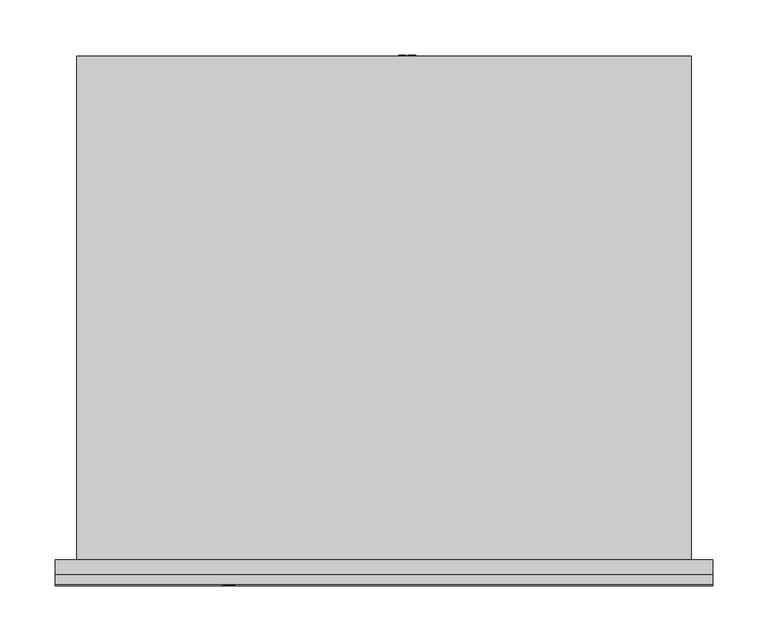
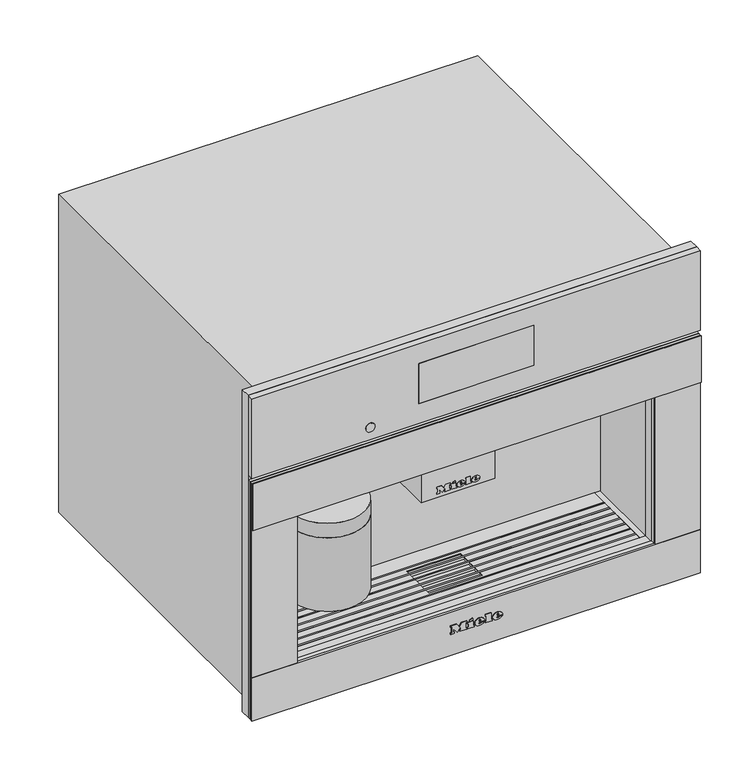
"""IFC4 building model written with IfcOpenShell, lengths in millimetres: proxy geometry, 11754270_USA_CVA7840_EDST-CLST : 29784040_USA_11754270_CVA7840_EDST-CLST."""

from ifc_helpers import new_model, si_unit, point, frame, frame_2d, origin, place, context, project, spatial, polyline, circle_curve, ellipse_curve, trimmed, segment, composite_curve, outline, extrude, faceted_brep, source, transform, mapped, element, save
from ifc_brep_helpers import plane_surface, cylinder_surface, revolved_surface, extruded_surface, advanced_brep


def specialty_equipment_d6a6ee0f(model_context):
    return source(origin(), model_context, "Body", "SolidModel", [
        extrude(outline(composite_curve([segment(trimmed(circle_curve(frame_2d((-14.0, 36.5)), 5.0), [point((-9.0, 36.5))], [point((-19.0, 36.5))], False, "CARTESIAN"), True, "CONTINUOUS"), segment(trimmed(circle_curve(frame_2d((-14.0, 36.5)), 5.0), [point((-19.0, 36.5))], [point((-9.0, 36.5))], False, "CARTESIAN"), True, "CONTINUOUS")], self_intersect=False)), frame((0.0, 0.0, 193.0), z_axis=(0.0, 0.0, 1.0), x_axis=(1.0, 0.0, 0.0)), (0.0, 0.0, 1.0), 5.0),
        extrude(outline(composite_curve([segment(trimmed(circle_curve(frame_2d((14.0, 36.5)), 5.0), [point((19.0, 36.5))], [point((9.0, 36.5))], False, "CARTESIAN"), True, "CONTINUOUS"), segment(trimmed(circle_curve(frame_2d((14.0, 36.5)), 5.0), [point((9.0, 36.5))], [point((19.0, 36.5))], False, "CARTESIAN"), True, "CONTINUOUS")], self_intersect=False)), frame((0.0, 0.0, 193.0), z_axis=(0.0, 0.0, 1.0), x_axis=(1.0, 0.0, 0.0)), (0.0, 0.0, 1.0), 5.0),
        extrude(outline(composite_curve([segment(trimmed(circle_curve(frame_2d((-156.5, 49.5)), 50.0), [point((-106.5, 49.5))], [point((-206.5, 49.5))], False, "CARTESIAN"), True, "CONTINUOUS"), segment(trimmed(circle_curve(frame_2d((-156.5, 49.5)), 50.0), [point((-206.5, 49.5))], [point((-106.5, 49.5))], False, "CARTESIAN"), True, "CONTINUOUS")], self_intersect=False)), frame((0.0, 0.0, 100.0), z_axis=(0.0, 0.0, 1.0), x_axis=(1.0, 0.0, 0.0)), (0.0, 0.0, 1.0), 103.0),
        extrude(outline(polyline([(-49.0, 95.0), (49.0, 95.0), (49.0, 20.0), (-49.0, 20.0), (-49.0, 95.0)])), frame((0.0, 0.0, 198.0), z_axis=(0.0, 0.0, 1.0), x_axis=(1.0, 0.0, 0.0)), (0.0, 0.0, 1.0), 75.0),
        extrude(outline(polyline([(455.5, 297.5), (455.5, -297.5), (4.0, -297.5), (4.0, 297.5), (455.5, 297.5)]), holes=[polyline([(273.0, 237.5), (63.0, 237.5), (63.0, -237.5), (273.0, -237.5), (273.0, 237.5)])]), frame((0.0, -13.0, 0.0), z_axis=(0.0, 1.0, 0.0), x_axis=(0.0, 0.0, 1.0)), (0.0, 0.0, 1.0), 13.0),
        extrude(outline(polyline([(97.0, 28.8772152), (107.045631, 28.8772152), (107.045631, 21.6569179), (105.7899271, 21.6569179), (105.7899271, 27.6215114), (102.8076304, 27.6215114), (102.8076304, 21.9708439), (101.5519266, 21.9708439), (101.5519266, 27.6215114), (98.2557039, 27.6215114), (98.2557039, 21.499955), (97.0, 21.499955), (97.0, 28.8772152)])), frame((0.0, 456.0, 0.0), z_axis=(0.0, 1.0, 0.0), x_axis=(0.0, 0.0, 1.0)), (0.0, 0.0, 1.0), 1.0),
        extrude(outline(polyline([(97.0, 19.6163991), (107.045631, 19.6163991), (107.045631, 18.3606953), (98.2557039, 18.3606953), (98.2557039, 13.3378798), (97.0, 13.3378798), (97.0, 19.6163991)])), frame((0.0, 456.0, 0.0), z_axis=(0.0, 1.0, 0.0), x_axis=(0.0, 0.0, 1.0)), (0.0, 0.0, 1.0), 1.0),
        advanced_brep(
        [(55.0, 425.5, 102.0), (55.0, 410.5, 102.0), (28.5, 425.5, 102.0), (13.5, 410.5, 102.0), (28.5, 456.0, 102.0), (13.5, 456.0, 102.0)],
        [
            (0, 1, circle_curve(frame((55.0, 418.0, 102.0), z_axis=(1.0, 0.0, 0.0), x_axis=(0.0, -1.0, 0.0)), 7.5)),
            (1, 0, circle_curve(frame((55.0, 418.0, 102.0), z_axis=(1.0, 0.0, 0.0), x_axis=(0.0, -1.0, 0.0)), 7.5)),
            (0, 2),
            (2, 3, ellipse_curve(frame((21.0, 418.0, 102.0), z_axis=(0.7071067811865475, -0.7071067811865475, 0.0), x_axis=(0.7071067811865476, 0.7071067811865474, 0.0)), 10.6066017, 7.5)),
            (3, 1),
            (3, 2, ellipse_curve(frame((21.0, 418.0, 102.0), z_axis=(0.7071067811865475, -0.7071067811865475, 0.0), x_axis=(0.7071067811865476, 0.7071067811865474, 0.0)), 10.6066017, 7.5)),
            (4, 5, circle_curve(frame((21.0, 456.0, 102.0), z_axis=(0.0, 1.0, 0.0), x_axis=(-1.0, 0.0, 0.0)), 7.5)),
            (5, 4, circle_curve(frame((21.0, 456.0, 102.0), z_axis=(0.0, 1.0, 0.0), x_axis=(-1.0, 0.0, 0.0)), 7.5)),
            (2, 4),
            (5, 3),
        ],
        [
            plane_surface(frame((55.0, 418.0, 102.0), z_axis=(1.0, 0.0, 0.0), x_axis=(0.0, 0.0, 1.0))),
            cylinder_surface(frame((55.0, 418.0, 102.0), z_axis=(1.0, 0.0, 0.0), x_axis=(0.0, -1.0, 0.0)), 7.5),
            plane_surface(frame((21.0, 456.0, 102.0), z_axis=(0.0, 1.0, 0.0), x_axis=(0.0, 0.0, 1.0))),
            cylinder_surface(frame((21.0, 418.0, 102.0), z_axis=(0.0, -1.0, 0.0), x_axis=(-1.0, 0.0, 0.0)), 7.5),
        ],
        [
            (0, [[1, 2]]),
            (1, [[-1, 3, 4, 5]]),
            (1, [[-2, -5, 6, -3]]),
            (2, [[7, 8]]),
            (3, [[-4, 9, -8, 10]]),
            (3, [[-6, -10, -7, -9]]),
        ],
    ),
        advanced_brep(
        [(-110.0, 49.5, 252.0), (-203.0, 49.5, 252.0), (-206.5, 49.5, 223.5), (-106.5, 49.5, 223.5), (-110.0, 49.5, 273.0), (-203.0, 49.5, 273.0), (-156.5, 49.5, 273.0), (-106.5, 49.5, 203.0), (-206.5, 49.5, 203.0), (-156.5, 49.5, 203.0)],
        [
            (0, 1, circle_curve(frame((-156.5, 49.5, 252.0), z_axis=(0.0, 0.0, -1.0), x_axis=(-1.0, 0.0, 0.0)), 46.5)),
            (1, 2, circle_curve(frame((-206.7961166, 49.5, 238.0012775), z_axis=(0.0, 1.0, 0.0), x_axis=(-1.0, 0.0, 0.0)), 14.5043005)),
            (2, 3, circle_curve(frame((-156.5, 49.5, 223.5), z_axis=(0.0, 0.0, 1.0), x_axis=(-1.0, 0.0, 0.0)), 50.0)),
            (3, 0, circle_curve(frame((-106.2038834, 49.5, 238.0012775), z_axis=(0.0, 1.0, 0.0), x_axis=(1.0, 0.0, 0.0)), 14.5043005)),
            (4, 5, circle_curve(frame((-156.5, 49.5, 273.0), z_axis=(0.0, 0.0, -1.0), x_axis=(-1.0, 0.0, 0.0)), 46.5)),
            (5, 1),
            (0, 4),
            (6, 4),
            (4, 5, circle_curve(frame((-156.5, 49.5, 273.0), z_axis=(0.0, 0.0, 1.0), x_axis=(-1.0, 0.0, 0.0)), 46.5)),
            (5, 6),
            (7, 8, circle_curve(frame((-156.5, 49.5, 203.0), z_axis=(0.0, 0.0, -1.0), x_axis=(-1.0, 0.0, 0.0)), 50.0)),
            (8, 9),
            (9, 7),
            (8, 7, circle_curve(frame((-156.5, 49.5, 203.0), z_axis=(0.0, 0.0, -1.0), x_axis=(-1.0, 0.0, 0.0)), 50.0)),
            (2, 8),
            (7, 3),
            (2, 3, circle_curve(frame((-156.5, 49.5, 223.5), z_axis=(0.0, 0.0, -1.0), x_axis=(-1.0, 0.0, 0.0)), 50.0)),
            (1, 0, circle_curve(frame((-156.5, 49.5, 252.0), z_axis=(0.0, 0.0, -1.0), x_axis=(-1.0, 0.0, 0.0)), 46.5)),
        ],
        [
            revolved_surface(trimmed(ellipse_curve(frame((-206.7961166, 49.5, 238.0012775), z_axis=(0.0, -1.0, 0.0), x_axis=(-1.0, 0.0, 0.0)), 14.5043005, 14.5043005), [point((-206.5, 49.5, 223.5))], [point((-203.0, 49.5, 252.0))], True, "CARTESIAN"), (-156.5, 49.5, 388.7361736), (0.0, 0.0, 1.0)),
            cylinder_surface(frame((-156.5, 49.5, 388.7361736), z_axis=(0.0, 0.0, 1.0), x_axis=(-1.0, 0.0, 0.0)), 46.5),
            plane_surface(frame((-156.5, 49.5, 273.0), z_axis=(0.0, 0.0, 1.0), x_axis=(-1.0, 0.0, 0.0))),
            plane_surface(frame((-156.5, 49.5, 203.0), z_axis=(0.0, 0.0, -1.0), x_axis=(-1.0, 0.0, 0.0))),
            cylinder_surface(frame((-156.5, 49.5, 388.7361736), z_axis=(0.0, 0.0, 1.0), x_axis=(-1.0, 0.0, 0.0)), 50.0),
        ],
        [
            (0, [[1, 2, 3, 4]]),
            (1, [[5, 6, -1, 7]]),
            (2, [[8, 9, 10]]),
            (3, [[11, 12, 13]]),
            (3, [[14, -13, -12]]),
            (4, [[-3, 15, -11, 16]]),
            (4, [[17, -16, -14, -15]]),
            (0, [[18, -4, -17, -2]]),
            (1, [[-9, -7, -18, -6]]),
            (2, [[-10, -5, -8]]),
        ],
    ),
        faceted_brep([(229.5, 82.0925571, 60.0), (229.5, 80.0925571, 60.0), (-229.5, 80.0925571, 60.0), (-229.5, 82.0925571, 60.0), (229.5, 70.0550731, 60.0), (229.5, 68.0550731, 60.0), (-229.5, 68.0550731, 60.0), (-229.5, 70.0550731, 60.0), (229.5, 58.0175891, 60.0), (229.5, 56.0175891, 60.0), (-229.5, 56.0175891, 60.0), (-229.5, 58.0175891, 60.0), (229.5, 45.9801052, 60.0), (229.5, 43.9801052, 60.0), (-229.5, 43.9801052, 60.0), (-229.5, 45.9801052, 60.0), (229.5, 33.9426212, 60.0), (229.5, 31.9426212, 60.0), (-229.5, 31.9426212, 60.0), (-229.5, 33.9426212, 60.0), (229.5, 21.9776522, 60.0), (229.5, 19.9776522, 60.0), (-229.5, 19.9776522, 60.0), (-229.5, 21.9776522, 60.0), (229.5, 10.0, 60.0), (229.5, 8.0, 60.0), (-229.5, 8.0, 60.0), (-229.5, 10.0, 60.0), (-229.5, 45.9801052, 62.0), (-36.0, 45.9801052, 62.0), (-36.0, 45.9801052, 63.0), (-229.5, 45.9801052, 63.0), (-229.5, 45.9801052, 63.5), (229.5, 45.9801052, 63.5), (229.5, 45.9801052, 63.0), (36.0, 45.9801052, 63.0), (36.0, 45.9801052, 62.0), (229.5, 45.9801052, 62.0), (229.5, 19.9776522, 62.0), (229.5, 10.0, 62.0), (-229.5, 10.0, 62.0), (-229.5, 19.9776522, 62.0), (229.5, 43.9801052, 62.0), (229.5, 33.9426212, 62.0), (36.0, 33.9426212, 62.0), (36.0, 43.9801052, 62.0), (229.5, 56.0175891, 62.0), (36.0, 56.0175891, 62.0), (229.5, 68.0550731, 62.0), (229.5, 58.0175891, 62.0), (36.0, 58.0175891, 62.0), (36.0, 68.0550731, 62.0), (-229.5, 33.9426212, 62.0), (-229.5, 43.9801052, 62.0), (-36.0, 43.9801052, 62.0), (-36.0, 33.9426212, 62.0), (-229.5, 56.0175891, 62.0), (-36.0, 56.0175891, 62.0), (-229.5, 58.0175891, 62.0), (-229.5, 68.0550731, 62.0), (-36.0, 68.0550731, 62.0), (-36.0, 58.0175891, 62.0), (-229.5, 104.5, 62.0), (229.5, 104.5, 62.0), (229.5, 82.0925571, 62.0), (-229.5, 82.0925571, 62.0), (36.0, 76.0, 62.0), (-36.0, 76.0, 62.0), (-36.0, 70.0550731, 62.0), (-229.5, 70.0550731, 62.0), (-229.5, 80.0925571, 62.0), (229.5, 80.0925571, 62.0), (229.5, 70.0550731, 62.0), (36.0, 70.0550731, 62.0), (229.5, 0.0, 62.0), (-229.5, 0.0, 62.0), (-229.5, 8.0, 62.0), (229.5, 8.0, 62.0), (-36.0, 25.0, 62.0), (36.0, 25.0, 62.0), (36.0, 31.9426212, 62.0), (229.5, 31.9426212, 62.0), (229.5, 21.9776522, 62.0), (-229.5, 21.9776522, 62.0), (-229.5, 31.9426212, 62.0), (-36.0, 31.9426212, 62.0), (229.5, 104.5, 63.0), (-229.5, 104.5, 63.0), (-229.5, 82.0925571, 63.0), (229.5, 82.0925571, 63.0), (-229.5, 0.0, 63.0), (229.5, 0.0, 63.0), (229.5, 8.0, 63.0), (-229.5, 8.0, 63.0), (-36.0, 76.0, 63.0), (36.0, 76.0, 63.0), (36.0, 70.0550731, 63.0), (229.5, 70.0550731, 63.0), (229.5, 80.0925571, 63.0), (-229.5, 80.0925571, 63.0), (-229.5, 70.0550731, 63.0), (-36.0, 70.0550731, 63.0), (36.0, 25.0, 63.0), (-36.0, 25.0, 63.0), (-36.0, 31.9426212, 63.0), (-229.5, 31.9426212, 63.0), (-229.5, 21.9776522, 63.0), (229.5, 21.9776522, 63.0), (229.5, 31.9426212, 63.0), (36.0, 31.9426212, 63.0), (-229.5, 19.9776522, 63.0), (-229.5, 10.0, 63.0), (229.5, 10.0, 63.0), (229.5, 19.9776522, 63.0), (-229.5, 43.9801052, 63.0), (-229.5, 33.9426212, 63.0), (-36.0, 33.9426212, 63.0), (-36.0, 43.9801052, 63.0), (-229.5, 56.0175891, 63.0), (-36.0, 56.0175891, 63.0), (-229.5, 68.0550731, 63.0), (-229.5, 58.0175891, 63.0), (-36.0, 58.0175891, 63.0), (-36.0, 68.0550731, 63.0), (229.5, 33.9426212, 63.0), (229.5, 43.9801052, 63.0), (36.0, 43.9801052, 63.0), (36.0, 33.9426212, 63.0), (229.5, 56.0175891, 63.0), (36.0, 56.0175891, 63.0), (229.5, 58.0175891, 63.0), (229.5, 68.0550731, 63.0), (36.0, 68.0550731, 63.0), (36.0, 58.0175891, 63.0), (-229.5, 8.0, 63.5), (-229.5, 10.0, 63.5), (-229.5, 19.9776522, 63.5), (-229.5, 21.9776522, 63.5), (-229.5, 31.9426212, 63.5), (-229.5, 33.9426212, 63.5), (-229.5, 43.9801052, 63.5), (-229.5, 56.0175891, 63.5), (-229.5, 58.0175891, 63.5), (-229.5, 68.0550731, 63.5), (-229.5, 70.0550731, 63.5), (-229.5, 80.0925571, 63.5), (-229.5, 82.0925571, 63.5), (229.5, 82.0925571, 63.5), (229.5, 80.0925571, 63.5), (229.5, 70.0550731, 63.5), (229.5, 68.0550731, 63.5), (229.5, 58.0175891, 63.5), (229.5, 56.0175891, 63.5), (229.5, 43.9801052, 63.5), (229.5, 33.9426212, 63.5), (229.5, 31.9426212, 63.5), (229.5, 21.9776522, 63.5), (229.5, 19.9776522, 63.5), (229.5, 10.0, 63.5), (229.5, 8.0, 63.5)], [[[0, 1, 2, 3]], [[4, 5, 6, 7]], [[8, 9, 10, 11]], [[12, 13, 14, 15]], [[16, 17, 18, 19]], [[20, 21, 22, 23]], [[24, 25, 26, 27]], [[12, 15, 28, 29, 30, 31, 32, 33, 34, 35, 36, 37]], [[38, 39, 40, 41]], [[42, 43, 44, 45]], [[46, 37, 36, 47]], [[48, 49, 50, 51]], [[52, 53, 54, 55]], [[28, 56, 57, 29]], [[58, 59, 60, 61]], [[62, 63, 64, 65]], [[66, 67, 68, 69, 70, 71, 72, 73]], [[74, 75, 76, 77]], [[78, 79, 80, 81, 82, 83, 84, 85]], [[86, 87, 88, 89]], [[90, 91, 92, 93]], [[94, 95, 96, 97, 98, 99, 100, 101]], [[102, 103, 104, 105, 106, 107, 108, 109]], [[110, 111, 112, 113]], [[114, 115, 116, 117]], [[118, 31, 30, 119]], [[120, 121, 122, 123]], [[124, 125, 126, 127]], [[34, 128, 129, 35]], [[130, 131, 132, 133]], [[63, 62, 87, 86]], [[87, 62, 65, 3, 2, 70, 69, 7, 6, 59, 58, 11, 10, 56, 28, 15, 14, 53, 52, 19, 18, 84, 83, 23, 22, 41, 40, 27, 26, 76, 75, 90, 93, 134, 135, 111, 110, 136, 137, 106, 105, 138, 139, 115, 114, 140, 32, 31, 118, 141, 142, 121, 120, 143, 144, 100, 99, 145, 146, 88]], [[75, 74, 91, 90]], [[63, 86, 89, 147, 148, 98, 97, 149, 150, 131, 130, 151, 152, 128, 34, 33, 153, 125, 124, 154, 155, 108, 107, 156, 157, 113, 112, 158, 159, 92, 91, 74, 77, 25, 24, 39, 38, 21, 20, 82, 81, 17, 16, 43, 42, 13, 12, 37, 46, 9, 8, 49, 48, 5, 4, 72, 71, 1, 0, 64]], [[66, 95, 94, 67]], [[55, 54, 117, 116]], [[29, 57, 119, 30]], [[61, 60, 123, 122]], [[67, 94, 101, 68]], [[103, 78, 85, 104]], [[78, 103, 102, 79]], [[45, 44, 127, 126]], [[47, 36, 35, 129]], [[51, 50, 133, 132]], [[95, 66, 73, 96]], [[79, 102, 109, 80]], [[158, 135, 134, 159]], [[156, 137, 136, 157]], [[154, 139, 138, 155]], [[33, 32, 140, 153]], [[151, 142, 141, 152]], [[149, 144, 143, 150]], [[147, 146, 145, 148]], [[24, 27, 40, 39]], [[135, 158, 112, 111]], [[26, 25, 77, 76]], [[159, 134, 93, 92]], [[20, 23, 83, 82]], [[137, 156, 107, 106]], [[22, 21, 38, 41]], [[157, 136, 110, 113]], [[16, 19, 52, 55, 116, 115, 139, 154, 124, 127, 44, 43]], [[18, 17, 81, 80, 109, 108, 155, 138, 105, 104, 85, 84]], [[14, 13, 42, 45, 126, 125, 153, 140, 114, 117, 54, 53]], [[8, 11, 58, 61, 122, 121, 142, 151, 130, 133, 50, 49]], [[10, 9, 46, 47, 129, 128, 152, 141, 118, 119, 57, 56]], [[4, 7, 69, 68, 101, 100, 144, 149, 97, 96, 73, 72]], [[6, 5, 48, 51, 132, 131, 150, 143, 120, 123, 60, 59]], [[0, 3, 65, 64]], [[146, 147, 89, 88]], [[2, 1, 71, 70]], [[148, 145, 99, 98]]]),
        faceted_brep([(-278.0, 456.0, 0.0), (-278.0, 0.0, 0.0), (-278.0, 0.0, 446.0), (-278.0, 456.0, 446.0), (278.0, 456.0, 0.0), (278.0, 456.0, 446.0), (278.0, 0.0, 446.0), (278.0, 0.0, 0.0), (55.0, 456.0, 133.0), (-22.0, 456.0, 133.0), (-22.0, 456.0, 89.0), (35.0, 456.0, 66.0), (55.0, 456.0, 66.0), (-36.0, 76.0, 58.0), (36.0, 76.0, 58.0), (36.0, 76.0, 62.0), (-36.0, 76.0, 62.0), (36.0, 25.0, 58.0), (-36.0, 25.0, 58.0), (-36.0, 25.0, 62.0), (36.0, 25.0, 62.0), (237.5, 0.0, 273.0), (237.5, 0.0, 63.0), (229.5, 0.0, 63.0), (229.5, 0.0, 62.0), (-229.5, 0.0, 62.0), (-229.5, 0.0, 63.0), (-237.5, 0.0, 63.0), (-237.5, 0.0, 273.0), (237.5, 104.5, 273.0), (-237.5, 104.5, 273.0), (-237.5, 104.5, 63.0), (-229.5, 104.5, 63.0), (-229.5, 104.5, 62.0), (229.5, 104.5, 62.0), (229.5, 104.5, 63.0), (237.5, 104.5, 63.0), (-22.0, 400.0, 133.0), (55.0, 400.0, 133.0), (55.0, 400.0, 66.0), (35.0, 400.0, 66.0), (-22.0, 400.0, 89.0)], [[[0, 1, 2, 3]], [[4, 5, 6, 7]], [[0, 3, 5, 4], [8, 9, 10, 11, 12]], [[13, 14, 15, 16]], [[17, 18, 19, 20]], [[3, 2, 6, 5]], [[2, 1, 7, 6], [21, 22, 23, 24, 25, 26, 27, 28]], [[1, 0, 4, 7]], [[29, 30, 31, 32, 33, 34, 35, 36]], [[29, 36, 22, 21]], [[22, 36, 35, 23]], [[31, 27, 26, 32]], [[31, 30, 28, 27]], [[30, 29, 21, 28]], [[34, 33, 25, 24], [16, 15, 20, 19]], [[25, 33, 32, 26]], [[34, 24, 23, 35]], [[14, 13, 18, 17]], [[18, 13, 16, 19]], [[14, 17, 20, 15]], [[37, 38, 39, 40, 41]], [[38, 37, 9, 8]], [[39, 38, 8, 12]], [[40, 39, 12, 11]], [[41, 40, 11, 10]], [[37, 41, 10, 9]]]),
        advanced_brep(
        [(27.088, -23.0, 36.7018), (27.088, -23.0, 37.8532), (34.7146, -23.0, 37.8532), (21.445, -23.0, 37.8532), (24.58, -23.0, 34.0), (34.5208, -23.0, 36.7018), (31.078, -23.0, 36.7018), (28.3648, -23.0, 35.425), (27.088, -23.0, 39.3124), (27.088, -23.0, 40.555), (29.0374, -23.0, 40.555), (29.0374, -23.0, 39.3124), (27.088, -22.0, 36.7018), (28.3648, -22.0, 35.425), (31.078, -22.0, 36.7018), (34.5208, -22.0, 36.7018), (24.58, -22.0, 34.0), (21.445, -22.0, 37.8532), (34.7146, -22.0, 37.8532), (27.088, -22.0, 37.8532), (27.088, -22.0, 39.3124), (29.0374, -22.0, 39.3124), (29.0374, -22.0, 40.555), (27.088, -22.0, 40.555)],
        [
            (0, 1),
            (1, 2),
            (2, 3, ellipse_curve(frame((28.0798, -23.0, 37.8532), z_axis=(0.0, -1.0, 0.0), x_axis=(-1.0, 0.0, 0.0)), 6.6348, 5.4834)),
            (3, 4, circle_curve(frame((25.8568622, -23.0, 38.2408), z_axis=(0.0, -1.0, 0.0), x_axis=(0.0, 0.0, -1.0)), 4.4288556)),
            (4, 5, circle_curve(frame((27.9469808, -23.0, 41.2504), z_axis=(0.0, -1.0, 0.0), x_axis=(0.0, 0.0, -1.0)), 7.9940516)),
            (5, 6),
            (6, 7, circle_curve(frame((28.9220588, -23.0, 37.762), z_axis=(0.0, 1.0, 0.0), x_axis=(0.0, 0.0, -1.0)), 2.4025208)),
            (7, 0, circle_curve(frame((28.3648, -23.0, 36.7018), z_axis=(0.0, 1.0, 0.0), x_axis=(0.0, 0.0, -1.0)), 1.2768)),
            (8, 9),
            (9, 10, circle_curve(frame((28.0627, -23.0, 40.555), z_axis=(0.0, 1.0, 0.0), x_axis=(0.0, 0.0, -1.0)), 0.9747)),
            (10, 11),
            (11, 8),
            (12, 13, circle_curve(frame((28.3648, -22.0, 36.7018), z_axis=(0.0, -1.0, 0.0), x_axis=(0.0, 0.0, -1.0)), 1.2768)),
            (13, 14, circle_curve(frame((28.9220588, -22.0, 37.762), z_axis=(0.0, -1.0, 0.0), x_axis=(0.0, 0.0, -1.0)), 2.4025208)),
            (14, 15),
            (15, 16, circle_curve(frame((27.9469808, -22.0, 41.2504), z_axis=(0.0, 1.0, 0.0), x_axis=(0.0, 0.0, -1.0)), 7.9940516)),
            (16, 17, circle_curve(frame((25.8568622, -22.0, 38.2408), z_axis=(0.0, 1.0, 0.0), x_axis=(0.0, 0.0, -1.0)), 4.4288556)),
            (17, 18, ellipse_curve(frame((28.0798, -22.0, 37.8532), z_axis=(0.0, 1.0, 0.0), x_axis=(-1.0, 0.0, 0.0)), 6.6348, 5.4834)),
            (18, 19),
            (19, 12),
            (20, 21),
            (21, 22),
            (22, 23, circle_curve(frame((28.0627, -22.0, 40.555), z_axis=(0.0, -1.0, 0.0), x_axis=(0.0, 0.0, -1.0)), 0.9747)),
            (23, 20),
            (0, 12),
            (19, 1),
            (18, 2),
            (5, 15),
            (14, 6),
            (17, 3),
            (13, 7),
            (16, 4),
            (8, 20),
            (23, 9),
            (22, 10),
            (21, 11),
        ],
        [
            plane_surface(frame((27.088, -23.0, 37.8532), z_axis=(0.0, -1.0, 0.0), x_axis=(0.0, 0.0, 1.0))),
            plane_surface(frame((27.088, -22.0, 37.8532), z_axis=(0.0, 1.0, 0.0), x_axis=(0.0, 0.0, -1.0))),
            plane_surface(frame((27.088, -23.0, 36.7018), z_axis=(1.0, 0.0, 0.0), x_axis=(0.0, 1.0, 0.0))),
            plane_surface(frame((27.088, -23.0, 37.8532), z_axis=(0.0, 0.0, -1.0), x_axis=(0.0, 1.0, 0.0))),
            plane_surface(frame((34.5208, -23.0, 36.7018), z_axis=(0.0, 0.0, 1.0), x_axis=(0.0, 1.0, 0.0))),
            extruded_surface(trimmed(ellipse_curve(frame((28.0798, -21.0, 37.8532), z_axis=(0.0, -1.0, 0.0), x_axis=(-1.0, 0.0, 0.0)), 6.6348, 5.4834), [point((34.7146, -21.0, 37.8532))], [point((21.445, -21.0, 37.8532))], True, "CARTESIAN"), (0.0, -1.0, 0.0), 1.0),
            revolved_surface(polyline([(28.9220588, -22.0, 35.3594792), (28.9220588, -23.0, 35.3594792)]), (28.9220588, -22.0, 37.762), (0.0, 1.0, 0.0)),
            revolved_surface(polyline([(28.3648, -22.0, 35.425), (28.3648, -23.0, 35.425)]), (28.3648, -22.0, 36.7018), (0.0, 1.0, 0.0)),
            cylinder_surface(frame((25.8568622, -22.0, 38.2408), z_axis=(0.0, -1.0, 0.0), x_axis=(0.0, 0.0, -1.0)), 4.4288556),
            cylinder_surface(frame((27.9469808, -22.0, 41.2504), z_axis=(0.0, -1.0, 0.0), x_axis=(0.0, 0.0, -1.0)), 7.9940516),
            plane_surface(frame((27.088, -23.0, 39.3124), z_axis=(1.0, 0.0, 0.0), x_axis=(0.0, 1.0, 0.0))),
            revolved_surface(polyline([(28.0627, -22.0, 39.5803), (28.0627, -23.0, 39.5803)]), (28.0627, -22.0, 40.555), (0.0, 1.0, 0.0)),
            plane_surface(frame((29.0374, -23.0, 40.555), z_axis=(-1.0, 0.0, 0.0), x_axis=(0.0, 1.0, 0.0))),
            plane_surface(frame((29.0374, -23.0, 39.3124), z_axis=(0.0, 0.0, 1.0), x_axis=(0.0, 1.0, 0.0))),
        ],
        [
            (0, [[1, 2, 3, 4, 5, 6, 7, 8], [9, 10, 11, 12]]),
            (1, [[13, 14, 15, 16, 17, 18, 19, 20], [21, 22, 23, 24]]),
            (2, [[-1, 25, -20, 26]]),
            (3, [[-2, -26, -19, 27]]),
            (4, [[-6, 28, -15, 29]]),
            (5, [[-3, -27, -18, 30]]),
            (6, [[-7, -29, -14, 31]]),
            (7, [[-8, -31, -13, -25]]),
            (8, [[-4, -30, -17, 32]]),
            (9, [[-5, -32, -16, -28]]),
            (10, [[-9, 33, -24, 34]]),
            (11, [[-10, -34, -23, 35]]),
            (12, [[-11, -35, -22, 36]]),
            (13, [[-12, -36, -21, -33]]),
        ],
    ),
        advanced_brep(
        [(3.2962, -23.0, 36.7018), (3.2962, -23.0, 37.8532), (10.9228, -23.0, 37.8532), (-2.3468, -23.0, 37.8532), (0.7882, -23.0, 34.0), (10.729, -23.0, 36.7018), (7.2862, -23.0, 36.7018), (4.573, -23.0, 35.425), (3.2962, -23.0, 39.3124), (3.2962, -23.0, 40.555), (5.2456, -23.0, 40.555), (5.2456, -23.0, 39.3124), (3.2962, -22.0, 36.7018), (4.573, -22.0, 35.425), (7.2862, -22.0, 36.7018), (10.729, -22.0, 36.7018), (0.7882, -22.0, 34.0), (-2.3468, -22.0, 37.8532), (10.9228, -22.0, 37.8532), (3.2962, -22.0, 37.8532), (3.2962, -22.0, 39.3124), (5.2456, -22.0, 39.3124), (5.2456, -22.0, 40.555), (3.2962, -22.0, 40.555)],
        [
            (0, 1),
            (1, 2),
            (2, 3, ellipse_curve(frame((4.288, -23.0, 37.8532), z_axis=(0.0, -1.0, 0.0), x_axis=(-1.0, 0.0, 0.0)), 6.6348, 5.4834)),
            (3, 4, circle_curve(frame((2.0650622, -23.0, 38.2408), z_axis=(0.0, -1.0, 0.0), x_axis=(0.0, 0.0, -1.0)), 4.4288556)),
            (4, 5, circle_curve(frame((4.1551808, -23.0, 41.2504), z_axis=(0.0, -1.0, 0.0), x_axis=(0.0, 0.0, -1.0)), 7.9940516)),
            (5, 6),
            (6, 7, circle_curve(frame((5.1302588, -23.0, 37.762), z_axis=(0.0, 1.0, 0.0), x_axis=(0.0, 0.0, -1.0)), 2.4025208)),
            (7, 0, circle_curve(frame((4.573, -23.0, 36.7018), z_axis=(0.0, 1.0, 0.0), x_axis=(0.0, 0.0, -1.0)), 1.2768)),
            (8, 9),
            (9, 10, circle_curve(frame((4.2709, -23.0, 40.555), z_axis=(0.0, 1.0, 0.0), x_axis=(0.0, 0.0, -1.0)), 0.9747)),
            (10, 11),
            (11, 8),
            (12, 13, circle_curve(frame((4.573, -22.0, 36.7018), z_axis=(0.0, -1.0, 0.0), x_axis=(0.0, 0.0, -1.0)), 1.2768)),
            (13, 14, circle_curve(frame((5.1302588, -22.0, 37.762), z_axis=(0.0, -1.0, 0.0), x_axis=(0.0, 0.0, -1.0)), 2.4025208)),
            (14, 15),
            (15, 16, circle_curve(frame((4.1551808, -22.0, 41.2504), z_axis=(0.0, 1.0, 0.0), x_axis=(0.0, 0.0, -1.0)), 7.9940516)),
            (16, 17, circle_curve(frame((2.0650622, -22.0, 38.2408), z_axis=(0.0, 1.0, 0.0), x_axis=(0.0, 0.0, -1.0)), 4.4288556)),
            (17, 18, ellipse_curve(frame((4.288, -22.0, 37.8532), z_axis=(0.0, 1.0, 0.0), x_axis=(-1.0, 0.0, 0.0)), 6.6348, 5.4834)),
            (18, 19),
            (19, 12),
            (20, 21),
            (21, 22),
            (22, 23, circle_curve(frame((4.2709, -22.0, 40.555), z_axis=(0.0, -1.0, 0.0), x_axis=(0.0, 0.0, -1.0)), 0.9747)),
            (23, 20),
            (0, 12),
            (19, 1),
            (18, 2),
            (5, 15),
            (14, 6),
            (17, 3),
            (13, 7),
            (16, 4),
            (8, 20),
            (23, 9),
            (22, 10),
            (21, 11),
        ],
        [
            plane_surface(frame((3.2962, -23.0, 37.8532), z_axis=(0.0, -1.0, 0.0), x_axis=(0.0, 0.0, 1.0))),
            plane_surface(frame((3.2962, -22.0, 37.8532), z_axis=(0.0, 1.0, 0.0), x_axis=(0.0, 0.0, -1.0))),
            plane_surface(frame((3.2962, -23.0, 36.7018), z_axis=(1.0, 0.0, 0.0), x_axis=(0.0, 1.0, 0.0))),
            plane_surface(frame((3.2962, -23.0, 37.8532), z_axis=(0.0, 0.0, -1.0), x_axis=(0.0, 1.0, 0.0))),
            plane_surface(frame((10.729, -23.0, 36.7018), z_axis=(0.0, 0.0, 1.0), x_axis=(0.0, 1.0, 0.0))),
            extruded_surface(trimmed(ellipse_curve(frame((4.288, -21.0, 37.8532), z_axis=(0.0, -1.0, 0.0), x_axis=(-1.0, 0.0, 0.0)), 6.6348, 5.4834), [point((10.9228, -21.0, 37.8532))], [point((-2.3468, -21.0, 37.8532))], True, "CARTESIAN"), (0.0, -1.0, 0.0), 1.0),
            revolved_surface(polyline([(5.1302588, -22.0, 35.3594792), (5.1302588, -23.0, 35.3594792)]), (5.1302588, -22.0, 37.762), (0.0, 1.0, 0.0)),
            revolved_surface(polyline([(4.573, -22.0, 35.425), (4.573, -23.0, 35.425)]), (4.573, -22.0, 36.7018), (0.0, 1.0, 0.0)),
            cylinder_surface(frame((2.0650622, -22.0, 38.2408), z_axis=(0.0, -1.0, 0.0), x_axis=(0.0, 0.0, -1.0)), 4.4288556),
            cylinder_surface(frame((4.1551808, -22.0, 41.2504), z_axis=(0.0, -1.0, 0.0), x_axis=(0.0, 0.0, -1.0)), 7.9940516),
            plane_surface(frame((3.2962, -23.0, 39.3124), z_axis=(1.0, 0.0, 0.0), x_axis=(0.0, 1.0, 0.0))),
            revolved_surface(polyline([(4.2709, -22.0, 39.5803), (4.2709, -23.0, 39.5803)]), (4.2709, -22.0, 40.555), (0.0, 1.0, 0.0)),
            plane_surface(frame((5.2456, -23.0, 40.555), z_axis=(-1.0, 0.0, 0.0), x_axis=(0.0, 1.0, 0.0))),
            plane_surface(frame((5.2456, -23.0, 39.3124), z_axis=(0.0, 0.0, 1.0), x_axis=(0.0, 1.0, 0.0))),
        ],
        [
            (0, [[1, 2, 3, 4, 5, 6, 7, 8], [9, 10, 11, 12]]),
            (1, [[13, 14, 15, 16, 17, 18, 19, 20], [21, 22, 23, 24]]),
            (2, [[-1, 25, -20, 26]]),
            (3, [[-2, -26, -19, 27]]),
            (4, [[-6, 28, -15, 29]]),
            (5, [[-3, -27, -18, 30]]),
            (6, [[-7, -29, -14, 31]]),
            (7, [[-8, -31, -13, -25]]),
            (8, [[-4, -30, -17, 32]]),
            (9, [[-5, -32, -16, -28]]),
            (10, [[-9, 33, -24, 34]]),
            (11, [[-10, -34, -23, 35]]),
            (12, [[-11, -35, -22, 36]]),
            (13, [[-12, -36, -21, -33]]),
        ],
    ),
        extrude(outline(polyline([(44.7274, -9.164), (42.8806, -8.2976), (44.6818, -4.433), (46.5286, -5.288), (44.7274, -9.164)])), frame((0.0, -23.0, 0.0), z_axis=(0.0, 1.0, 0.0), x_axis=(0.0, 0.0, 1.0)), (0.0, 0.0, 1.0), 1.0),
        extrude(outline(polyline([(42.6298, -11.9798), (40.5892, -11.9798), (40.5892, -10.6232), (35.9152, -10.6232), (35.9152, -11.9798), (34.0, -11.9798), (34.0, -2.9852), (35.9152, -2.9852), (35.9152, -4.3076), (42.6298, -4.3076), (42.6298, -11.9798)])), frame((0.0, -23.0, 0.0), z_axis=(0.0, 1.0, 0.0), x_axis=(0.0, 0.0, 1.0)), (0.0, 0.0, 1.0), 1.0),
        extrude(outline(polyline([(43.5418, 11.5612), (43.5418, 12.9292), (35.9152, 12.9292), (35.9152, 11.5612), (34.0, 11.5612), (34.0, 20.8066), (35.9152, 20.8066), (35.9152, 19.4044), (45.4, 19.4044), (45.4, 11.5612), (43.5418, 11.5612)])), frame((0.0, -23.0, 0.0), z_axis=(0.0, 1.0, 0.0), x_axis=(0.0, 0.0, 1.0)), (0.0, 0.0, 1.0), 1.0),
        extrude(outline(polyline([(43.5418, -34.7), (43.5418, -33.3206), (35.9152, -33.3206), (35.9152, -34.7), (34.0, -34.7), (34.0, -29.684), (35.9152, -29.684), (35.9152, -31.052), (40.7429247, -31.052), (34.0, -25.9562), (40.9402223, -20.8376), (35.9152, -20.8376), (35.9152, -22.2398), (34.0, -22.2398), (34.0, -13.1426), (35.9152, -13.1426), (35.9152, -14.5904), (43.5418, -14.5904), (43.5418, -13.1426), (45.4, -13.1426), (45.4, -20.0852), (41.125, -23.414), (45.4, -26.7542), (45.4, -34.7), (43.5418, -34.7)])), frame((0.0, -23.0, 0.0), z_axis=(0.0, 1.0, 0.0), x_axis=(0.0, 0.0, 1.0)), (0.0, 0.0, 1.0), 1.0),
        advanced_brep(
        [(22.348, 19.0, 205.5278), (22.348, 19.0, 206.4772), (28.6366, 19.0, 206.4772), (17.695, 19.0, 206.4772), (20.28, 19.0, 203.3), (28.4768, 19.0, 205.5278), (25.638, 19.0, 205.5278), (23.4008, 19.0, 204.475), (22.348, 19.0, 207.6804), (22.348, 19.0, 208.705), (23.9554, 19.0, 208.705), (23.9554, 19.0, 207.6804), (22.348, 20.0, 205.5278), (23.4008, 20.0, 204.475), (25.638, 20.0, 205.5278), (28.4768, 20.0, 205.5278), (20.28, 20.0, 203.3), (17.695, 20.0, 206.4772), (28.6366, 20.0, 206.4772), (22.348, 20.0, 206.4772), (22.348, 20.0, 207.6804), (23.9554, 20.0, 207.6804), (23.9554, 20.0, 208.705), (22.348, 20.0, 208.705)],
        [
            (0, 1),
            (1, 2),
            (2, 3, ellipse_curve(frame((23.1658, 19.0, 206.4772), z_axis=(0.0, -1.0, 0.0), x_axis=(-1.0, 0.0, 0.0)), 5.4708, 4.5214)),
            (3, 4, circle_curve(frame((21.3328513, 19.0, 206.7968), z_axis=(0.0, -1.0, 0.0), x_axis=(0.0, 0.0, -1.0)), 3.6518634)),
            (4, 5, circle_curve(frame((23.0562825, 19.0, 209.2784), z_axis=(0.0, -1.0, 0.0), x_axis=(0.0, 0.0, -1.0)), 6.5915864)),
            (5, 6),
            (6, 7, circle_curve(frame((23.8602941, 19.0, 206.402), z_axis=(0.0, 1.0, 0.0), x_axis=(0.0, 0.0, -1.0)), 1.981026)),
            (7, 0, circle_curve(frame((23.4008, 19.0, 205.5278), z_axis=(0.0, 1.0, 0.0), x_axis=(0.0, 0.0, -1.0)), 1.0528)),
            (8, 9),
            (9, 10, circle_curve(frame((23.1517, 19.0, 208.705), z_axis=(0.0, 1.0, 0.0), x_axis=(0.0, 0.0, -1.0)), 0.8037)),
            (10, 11),
            (11, 8),
            (12, 13, circle_curve(frame((23.4008, 20.0, 205.5278), z_axis=(0.0, -1.0, 0.0), x_axis=(0.0, 0.0, -1.0)), 1.0528)),
            (13, 14, circle_curve(frame((23.8602941, 20.0, 206.402), z_axis=(0.0, -1.0, 0.0), x_axis=(0.0, 0.0, -1.0)), 1.981026)),
            (14, 15),
            (15, 16, circle_curve(frame((23.0562825, 20.0, 209.2784), z_axis=(0.0, 1.0, 0.0), x_axis=(0.0, 0.0, -1.0)), 6.5915864)),
            (16, 17, circle_curve(frame((21.3328513, 20.0, 206.7968), z_axis=(0.0, 1.0, 0.0), x_axis=(0.0, 0.0, -1.0)), 3.6518634)),
            (17, 18, ellipse_curve(frame((23.1658, 20.0, 206.4772), z_axis=(0.0, 1.0, 0.0), x_axis=(-1.0, 0.0, 0.0)), 5.4708, 4.5214)),
            (18, 19),
            (19, 12),
            (20, 21),
            (21, 22),
            (22, 23, circle_curve(frame((23.1517, 20.0, 208.705), z_axis=(0.0, -1.0, 0.0), x_axis=(0.0, 0.0, -1.0)), 0.8037)),
            (23, 20),
            (0, 12),
            (19, 1),
            (18, 2),
            (5, 15),
            (14, 6),
            (17, 3),
            (13, 7),
            (16, 4),
            (8, 20),
            (23, 9),
            (22, 10),
            (21, 11),
        ],
        [
            plane_surface(frame((22.348, 19.0, 206.4772), z_axis=(0.0, -1.0, 0.0), x_axis=(0.0, 0.0, 1.0))),
            plane_surface(frame((22.348, 20.0, 206.4772), z_axis=(0.0, 1.0, 0.0), x_axis=(0.0, 0.0, -1.0))),
            plane_surface(frame((22.348, 19.0, 205.5278), z_axis=(1.0, 0.0, 0.0), x_axis=(0.0, 1.0, 0.0))),
            plane_surface(frame((22.348, 19.0, 206.4772), z_axis=(0.0, 0.0, -1.0), x_axis=(0.0, 1.0, 0.0))),
            plane_surface(frame((28.4768, 19.0, 205.5278), z_axis=(0.0, 0.0, 1.0), x_axis=(0.0, 1.0, 0.0))),
            extruded_surface(trimmed(ellipse_curve(frame((23.1658, 21.0, 206.4772), z_axis=(0.0, -1.0, 0.0), x_axis=(-1.0, 0.0, 0.0)), 5.4708, 4.5214), [point((28.6366, 21.0, 206.4772))], [point((17.695, 21.0, 206.4772))], True, "CARTESIAN"), (0.0, -1.0, 0.0), 1.0),
            revolved_surface(polyline([(23.8602941, 20.0, 204.420974), (23.8602941, 19.0, 204.420974)]), (23.8602941, 20.0, 206.402), (0.0, 1.0, 0.0)),
            revolved_surface(polyline([(23.4008, 20.0, 204.47500000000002), (23.4008, 19.0, 204.47500000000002)]), (23.4008, 20.0, 205.5278), (0.0, 1.0, 0.0)),
            cylinder_surface(frame((21.3328513, 20.0, 206.7968), z_axis=(0.0, -1.0, 0.0), x_axis=(0.0, 0.0, -1.0)), 3.6518634),
            cylinder_surface(frame((23.0562825, 20.0, 209.2784), z_axis=(0.0, -1.0, 0.0), x_axis=(0.0, 0.0, -1.0)), 6.5915864),
            plane_surface(frame((22.348, 19.0, 207.6804), z_axis=(1.0, 0.0, 0.0), x_axis=(0.0, 1.0, 0.0))),
            revolved_surface(polyline([(23.1517, 20.0, 207.90130000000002), (23.1517, 19.0, 207.90130000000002)]), (23.1517, 20.0, 208.705), (0.0, 1.0, 0.0)),
            plane_surface(frame((23.9554, 19.0, 208.705), z_axis=(-1.0, 0.0, 0.0), x_axis=(0.0, 1.0, 0.0))),
            plane_surface(frame((23.9554, 19.0, 207.6804), z_axis=(0.0, 0.0, 1.0), x_axis=(0.0, 1.0, 0.0))),
        ],
        [
            (0, [[1, 2, 3, 4, 5, 6, 7, 8], [9, 10, 11, 12]]),
            (1, [[13, 14, 15, 16, 17, 18, 19, 20], [21, 22, 23, 24]]),
            (2, [[-1, 25, -20, 26]]),
            (3, [[-2, -26, -19, 27]]),
            (4, [[-6, 28, -15, 29]]),
            (5, [[-3, -27, -18, 30]]),
            (6, [[-7, -29, -14, 31]]),
            (7, [[-8, -31, -13, -25]]),
            (8, [[-4, -30, -17, 32]]),
            (9, [[-5, -32, -16, -28]]),
            (10, [[-9, 33, -24, 34]]),
            (11, [[-10, -34, -23, 35]]),
            (12, [[-11, -35, -22, 36]]),
            (13, [[-12, -36, -21, -33]]),
        ],
    ),
        advanced_brep(
        [(2.7302, 19.0, 205.5278), (2.7302, 19.0, 206.4772), (9.0188, 19.0, 206.4772), (-1.9228, 19.0, 206.4772), (0.6622, 19.0, 203.3), (8.859, 19.0, 205.5278), (6.0202, 19.0, 205.5278), (3.783, 19.0, 204.475), (2.7302, 19.0, 207.6804), (2.7302, 19.0, 208.705), (4.3376, 19.0, 208.705), (4.3376, 19.0, 207.6804), (2.7302, 20.0, 205.5278), (3.783, 20.0, 204.475), (6.0202, 20.0, 205.5278), (8.859, 20.0, 205.5278), (0.6622, 20.0, 203.3), (-1.9228, 20.0, 206.4772), (9.0188, 20.0, 206.4772), (2.7302, 20.0, 206.4772), (2.7302, 20.0, 207.6804), (4.3376, 20.0, 207.6804), (4.3376, 20.0, 208.705), (2.7302, 20.0, 208.705)],
        [
            (0, 1),
            (1, 2),
            (2, 3, ellipse_curve(frame((3.548, 19.0, 206.4772), z_axis=(0.0, -1.0, 0.0), x_axis=(-1.0, 0.0, 0.0)), 5.4708, 4.5214)),
            (3, 4, circle_curve(frame((1.7150513, 19.0, 206.7968), z_axis=(0.0, -1.0, 0.0), x_axis=(0.0, 0.0, -1.0)), 3.6518634)),
            (4, 5, circle_curve(frame((3.4384825, 19.0, 209.2784), z_axis=(0.0, -1.0, 0.0), x_axis=(0.0, 0.0, -1.0)), 6.5915864)),
            (5, 6),
            (6, 7, circle_curve(frame((4.2424941, 19.0, 206.402), z_axis=(0.0, 1.0, 0.0), x_axis=(0.0, 0.0, -1.0)), 1.981026)),
            (7, 0, circle_curve(frame((3.783, 19.0, 205.5278), z_axis=(0.0, 1.0, 0.0), x_axis=(0.0, 0.0, -1.0)), 1.0528)),
            (8, 9),
            (9, 10, circle_curve(frame((3.5339, 19.0, 208.705), z_axis=(0.0, 1.0, 0.0), x_axis=(0.0, 0.0, -1.0)), 0.8037)),
            (10, 11),
            (11, 8),
            (12, 13, circle_curve(frame((3.783, 20.0, 205.5278), z_axis=(0.0, -1.0, 0.0), x_axis=(0.0, 0.0, -1.0)), 1.0528)),
            (13, 14, circle_curve(frame((4.2424941, 20.0, 206.402), z_axis=(0.0, -1.0, 0.0), x_axis=(0.0, 0.0, -1.0)), 1.981026)),
            (14, 15),
            (15, 16, circle_curve(frame((3.4384825, 20.0, 209.2784), z_axis=(0.0, 1.0, 0.0), x_axis=(0.0, 0.0, -1.0)), 6.5915864)),
            (16, 17, circle_curve(frame((1.7150513, 20.0, 206.7968), z_axis=(0.0, 1.0, 0.0), x_axis=(0.0, 0.0, -1.0)), 3.6518634)),
            (17, 18, ellipse_curve(frame((3.548, 20.0, 206.4772), z_axis=(0.0, 1.0, 0.0), x_axis=(-1.0, 0.0, 0.0)), 5.4708, 4.5214)),
            (18, 19),
            (19, 12),
            (20, 21),
            (21, 22),
            (22, 23, circle_curve(frame((3.5339, 20.0, 208.705), z_axis=(0.0, -1.0, 0.0), x_axis=(0.0, 0.0, -1.0)), 0.8037)),
            (23, 20),
            (0, 12),
            (19, 1),
            (18, 2),
            (5, 15),
            (14, 6),
            (17, 3),
            (13, 7),
            (16, 4),
            (8, 20),
            (23, 9),
            (22, 10),
            (21, 11),
        ],
        [
            plane_surface(frame((2.7302, 19.0, 206.4772), z_axis=(0.0, -1.0, 0.0), x_axis=(0.0, 0.0, 1.0))),
            plane_surface(frame((2.7302, 20.0, 206.4772), z_axis=(0.0, 1.0, 0.0), x_axis=(0.0, 0.0, -1.0))),
            plane_surface(frame((2.7302, 19.0, 205.5278), z_axis=(1.0, 0.0, 0.0), x_axis=(0.0, 1.0, 0.0))),
            plane_surface(frame((2.7302, 19.0, 206.4772), z_axis=(0.0, 0.0, -1.0), x_axis=(0.0, 1.0, 0.0))),
            plane_surface(frame((8.859, 19.0, 205.5278), z_axis=(0.0, 0.0, 1.0), x_axis=(0.0, 1.0, 0.0))),
            extruded_surface(trimmed(ellipse_curve(frame((3.548, 21.0, 206.4772), z_axis=(0.0, -1.0, 0.0), x_axis=(-1.0, 0.0, 0.0)), 5.4708, 4.5214), [point((9.0188, 21.0, 206.4772))], [point((-1.9228, 21.0, 206.4772))], True, "CARTESIAN"), (0.0, -1.0, 0.0), 1.0),
            revolved_surface(polyline([(4.2424941, 20.0, 204.420974), (4.2424941, 19.0, 204.420974)]), (4.2424941, 20.0, 206.402), (0.0, 1.0, 0.0)),
            revolved_surface(polyline([(3.783, 20.0, 204.47500000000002), (3.783, 19.0, 204.47500000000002)]), (3.783, 20.0, 205.5278), (0.0, 1.0, 0.0)),
            cylinder_surface(frame((1.7150513, 20.0, 206.7968), z_axis=(0.0, -1.0, 0.0), x_axis=(0.0, 0.0, -1.0)), 3.6518634),
            cylinder_surface(frame((3.4384825, 20.0, 209.2784), z_axis=(0.0, -1.0, 0.0), x_axis=(0.0, 0.0, -1.0)), 6.5915864),
            plane_surface(frame((2.7302, 19.0, 207.6804), z_axis=(1.0, 0.0, 0.0), x_axis=(0.0, 1.0, 0.0))),
            revolved_surface(polyline([(3.5339, 20.0, 207.90130000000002), (3.5339, 19.0, 207.90130000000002)]), (3.5339, 20.0, 208.705), (0.0, 1.0, 0.0)),
            plane_surface(frame((4.3376, 19.0, 208.705), z_axis=(-1.0, 0.0, 0.0), x_axis=(0.0, 1.0, 0.0))),
            plane_surface(frame((4.3376, 19.0, 207.6804), z_axis=(0.0, 0.0, 1.0), x_axis=(0.0, 1.0, 0.0))),
        ],
        [
            (0, [[1, 2, 3, 4, 5, 6, 7, 8], [9, 10, 11, 12]]),
            (1, [[13, 14, 15, 16, 17, 18, 19, 20], [21, 22, 23, 24]]),
            (2, [[-1, 25, -20, 26]]),
            (3, [[-2, -26, -19, 27]]),
            (4, [[-6, 28, -15, 29]]),
            (5, [[-3, -27, -18, 30]]),
            (6, [[-7, -29, -14, 31]]),
            (7, [[-8, -31, -13, -25]]),
            (8, [[-4, -30, -17, 32]]),
            (9, [[-5, -32, -16, -28]]),
            (10, [[-9, 33, -24, 34]]),
            (11, [[-10, -34, -23, 35]]),
            (12, [[-11, -35, -22, 36]]),
            (13, [[-12, -36, -21, -33]]),
        ],
    ),
        extrude(outline(polyline([(212.1454, -7.544), (210.6226, -6.8296), (212.1078, -3.643), (213.6306, -4.348), (212.1454, -7.544)])), frame((0.0, 19.0, 0.0), z_axis=(0.0, 1.0, 0.0), x_axis=(0.0, 0.0, 1.0)), (0.0, 0.0, 1.0), 1.0),
        extrude(outline(polyline([(210.4158, -9.8658), (208.7332, -9.8658), (208.7332, -8.7472), (204.8792, -8.7472), (204.8792, -9.8658), (203.3, -9.8658), (203.3, -2.4492), (204.8792, -2.4492), (204.8792, -3.5396), (210.4158, -3.5396), (210.4158, -9.8658)])), frame((0.0, 19.0, 0.0), z_axis=(0.0, 1.0, 0.0), x_axis=(0.0, 0.0, 1.0)), (0.0, 0.0, 1.0), 1.0),
        extrude(outline(polyline([(211.1678, 9.5452), (211.1678, 10.6732), (204.8792, 10.6732), (204.8792, 9.5452), (203.3, 9.5452), (203.3, 17.1686), (204.8792, 17.1686), (204.8792, 16.0124), (212.7, 16.0124), (212.7, 9.5452), (211.1678, 9.5452)])), frame((0.0, 19.0, 0.0), z_axis=(0.0, 1.0, 0.0), x_axis=(0.0, 0.0, 1.0)), (0.0, 0.0, 1.0), 1.0),
        extrude(outline(polyline([(211.1678, -28.6), (211.1678, -27.4626), (204.8792, -27.4626), (204.8792, -28.6), (203.3, -28.6), (203.3, -24.464), (204.8792, -24.464), (204.8792, -25.592), (208.8689247, -25.592), (203.3, -21.3902), (208.9902223, -17.1696), (204.8792, -17.1696), (204.8792, -18.3258), (203.3, -18.3258), (203.3, -10.8246), (204.8792, -10.8246), (204.8792, -12.0184), (211.1678, -12.0184), (211.1678, -10.8246), (212.7, -10.8246), (212.7, -16.5492), (209.175, -19.294), (212.7, -22.0482), (212.7, -28.6), (211.1678, -28.6)])), frame((0.0, 19.0, 0.0), z_axis=(0.0, 1.0, 0.0), x_axis=(0.0, 0.0, 1.0)), (0.0, 0.0, 1.0), 1.0),
        extrude(outline(polyline([(-297.5, -22.0), (297.5, -22.0), (297.5, -23.3), (-297.5, -23.3), (-297.5, -22.0)])), frame((0.0, 0.0, 272.0), z_axis=(0.0, 0.0, 1.0), x_axis=(1.0, 0.0, 0.0)), (0.0, 0.0, 1.0), 65.0),
        extrude(outline(polyline([(337.0, 297.5), (337.0, -297.5), (4.0, -297.5), (4.0, 297.5), (337.0, 297.5)]), holes=[polyline([(272.0, 237.5), (64.0, 237.5), (64.0, -237.5), (272.0, -237.5), (272.0, 237.5)])]), frame((0.0, -18.0, 0.0), z_axis=(0.0, 1.0, 0.0), x_axis=(0.0, 0.0, 1.0)), (0.0, 0.0, 1.0), 5.0),
        extrude(outline(polyline([(-297.5, -18.0), (-237.5, -18.0), (-237.5, -22.0), (-297.5, -22.0), (-297.5, -18.0)])), frame((0.0, 0.0, 64.5), z_axis=(0.0, 0.0, 1.0), x_axis=(1.0, 0.0, 0.0)), (0.0, 0.0, 1.0), 207.0),
        extrude(outline(polyline([(237.5, -18.0), (297.5, -18.0), (297.5, -22.0), (237.5, -22.0), (237.5, -18.0)])), frame((0.0, 0.0, 64.5), z_axis=(0.0, 0.0, 1.0), x_axis=(1.0, 0.0, 0.0)), (0.0, 0.0, 1.0), 207.0),
        extrude(outline(polyline([(-297.5, -18.0), (297.5, -18.0), (297.5, -22.0), (-297.5, -22.0), (-297.5, -18.0)])), frame((0.0, 0.0, 272.0), z_axis=(0.0, 0.0, 1.0), x_axis=(1.0, 0.0, 0.0)), (0.0, 0.0, 1.0), 65.0),
        extrude(outline(polyline([(-297.5, -18.0), (297.5, -18.0), (297.5, -22.0), (-297.5, -22.0), (-297.5, -18.0)])), frame((0.0, 0.0, 4.0), z_axis=(0.0, 0.0, 1.0), x_axis=(1.0, 0.0, 0.0)), (0.0, 0.0, 1.0), 60.0),
        extrude(outline(composite_curve([segment(trimmed(circle_curve(frame_2d((361.0, -140.5745637)), 6.0), [point((361.0, -146.5745637))], [point((361.0, -134.5745637))], False, "CARTESIAN"), True, "CONTINUOUS"), segment(trimmed(circle_curve(frame_2d((361.0, -140.5745637)), 6.0), [point((361.0, -134.5745637))], [point((361.0, -146.5745637))], False, "CARTESIAN"), True, "CONTINUOUS")], self_intersect=False)), frame((0.0, -22.5, 0.0), z_axis=(0.0, 1.0, 0.0), x_axis=(0.0, 0.0, 1.0)), (0.0, 0.0, 1.0), 1.0),
        extrude(outline(polyline([(-76.5, -21.0), (76.5, -21.0), (76.5, -22.0), (-76.5, -22.0), (-76.5, -21.0)])), frame((0.0, 0.0, 372.0), z_axis=(0.0, 0.0, 1.0), x_axis=(1.0, 0.0, 0.0)), (0.0, 0.0, 1.0), 56.0),
        faceted_brep([(297.5, -22.0, 455.5), (-297.5, -22.0, 455.5), (-297.5, -22.0, 344.0), (297.5, -22.0, 344.0), (76.5, -22.0, 428.0), (76.5, -22.0, 372.0), (-76.5, -22.0, 372.0), (-76.5, -22.0, 428.0), (297.5, -13.0, 455.5), (297.5, -13.0, 344.0), (-297.5, -13.0, 344.0), (-297.5, -13.0, 455.5), (76.5, -21.0, 428.0), (-76.5, -21.0, 428.0), (-76.5, -21.0, 372.0), (76.5, -21.0, 372.0)], [[[0, 1, 2, 3], [4, 5, 6, 7]], [[8, 9, 10, 11]], [[1, 0, 8, 11]], [[2, 1, 11, 10]], [[3, 2, 10, 9]], [[0, 3, 9, 8]], [[12, 13, 14, 15]], [[12, 15, 5, 4]], [[15, 14, 6, 5]], [[14, 13, 7, 6]], [[13, 12, 4, 7]]]),
    ])


if __name__ == "__main__":
    model = new_model("IFC4")
    model_context = context("Model", 3, world=origin())
    ifc_project = project(units=[si_unit("LENGTHUNIT", "METRE", prefix="MILLI")], contexts=[model_context])
    site = spatial("IfcSite", under=ifc_project)
    building = spatial("IfcBuilding", under=site)
    placement = place(None, origin())
    specialty_equipment_shape = specialty_equipment_d6a6ee0f(model_context)
    element("IfcBuildingElementProxy", 1, Name="11754270_USA_CVA7840_EDST-CLST : 29784040_USA_11754270_CVA7840_EDST-CLST", ObjectType="11754270_USA_CVA7840_EDST-CLST : 29784040_USA_11754270_CVA7840_EDST-CLST", at=placement, inside=building, context=model_context, shape_type="MappedRepresentation", body=[
        mapped(specialty_equipment_shape, transform((0.0, 0.0, 0.0), x_axis=(1.0, 0.0, 0.0), y_axis=(0.0, 1.0, 0.0), z_axis=(0.0, 0.0, 1.0))),
    ])
    save(model, "model.ifc")
